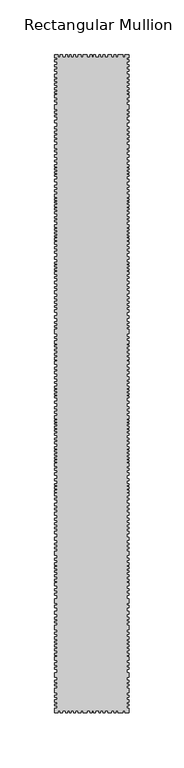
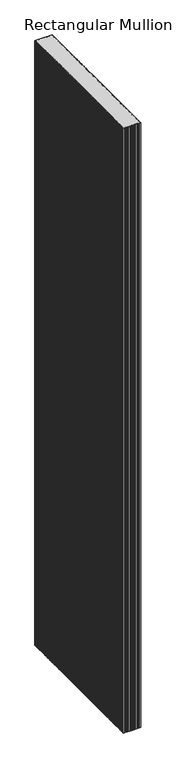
"""IFC4 building model written with IfcOpenShell, lengths in millimetres: member geometry, Rectangular Mullion : DucoSun Cubic Design louvre 600."""

from ifc_helpers import new_model, si_unit, frame, origin, place, context, project, spatial, polyline, outline, extrude, source, transform, mapped, element, save


def rectangular_mullion_94cab562(model_context):
    return source(origin(), model_context, "Body", "SweptSolid", [
        extrude(outline(polyline([(34.0, 597.3782451), (32.0, 597.3782451), (32.0, 595.4241521), (34.0, 595.4241521), (34.0, 593.6532553), (32.0, 593.6532553), (32.0, 590.9460223), (34.0, 590.9460223), (34.0, 588.9105087), (32.0, 588.9105087), (32.0, 586.7121541), (34.0, 586.7121541), (34.0, 585.0023227), (32.0, 585.0023227), (32.0, 582.3561551), (34.0, 582.3561551), (34.0, 579.3843053), (32.0, 579.3843053), (32.0, 577.8917893), (34.0, 577.8917893), (34.0, 575.8425117), (32.0, 575.8425117), (32.0, 573.8680636), (34.0, 573.8680636), (34.0, 572.1582322), (32.0, 572.1582322), (32.0, 570.0820083), (34.0, 570.0820083), (34.0, 568.3111116), (32.0, 568.3111116), (32.0, 566.4995045), (34.0, 566.4995045), (34.0, 565.0713495), (32.0, 565.0713495), (32.0, 563.4577392), (34.0, 563.4577392), (34.0, 561.0328231), (32.0, 561.0328231), (32.0, 558.5725067), (34.0, 558.5725067), (34.0, 557.0325964), (32.0, 557.0325964), (32.0, 554.5014796), (34.0, 554.5014796), (34.0, 550.4127524), (32.0, 550.4127524), (32.0, 548.4126391), (34.0, 548.4126391), (34.0, 546.8373286), (32.0, 546.8373286), (32.0, 544.9965163), (34.0, 544.9965163), (34.0, 543.3504053), (32.0, 543.3504053), (32.0, 540.3767855), (34.0, 540.3767855), (34.0, 537.9545244), (32.0, 537.9545244), (32.0, 534.5552168), (34.0, 534.5552168), (34.0, 532.5197032), (32.0, 532.5197032), (32.0, 530.239928), (34.0, 530.239928), (34.0, 528.6929377), (32.0, 528.6929377), (32.0, 526.4335177), (34.0, 526.4335177), (34.0, 524.5608452), (32.0, 524.5608452), (32.0, 522.6271073), (34.0, 522.6271073), (34.0, 520.5508835), (32.0, 520.5508835), (32.0, 518.0064916), (34.0, 518.0064916), (34.0, 514.9328661), (32.0, 514.9328661), (32.0, 512.9177077), (34.0, 512.9177077), (34.0, 511.4114277), (32.0, 511.4114277), (32.0, 508.9688114), (34.0, 508.9688114), (34.0, 506.7118273), (32.0, 506.7118273), (32.0, 503.8852623), (34.0, 503.8852623), (34.0, 502.4316003), (32.0, 502.4316003), (32.0, 499.9011516), (34.0, 499.9011516), (34.0, 497.8552569), (32.0, 497.8552569), (32.0, 496.6169522), (34.0, 496.6169522), (34.0, 495.0825312), (32.0, 495.0825312), (32.0, 493.4673512), (34.0, 493.4673512), (34.0, 492.0675286), (32.0, 492.0675286), (32.0, 490.5869469), (34.0, 490.5869469), (34.0, 489.1602046), (32.0, 489.1602046), (32.0, 486.3310055), (34.0, 486.3310055), (34.0, 484.2608252), (32.0, 484.2608252), (32.0, 481.1919832), (34.0, 481.1919832), (34.0, 479.2537672), (32.0, 479.2537672), (32.0, 476.9360418), (34.0, 476.9360418), (34.0, 475.0004598), (32.0, 475.0004598), (32.0, 472.9007258), (34.0, 472.9007258), (34.0, 470.1010805), (32.0, 470.1010805), (32.0, 468.8089365), (34.0, 468.8089365), (34.0, 467.3014351), (32.0, 467.3014351), (32.0, 466.0362108), (34.0, 466.0362108), (34.0, 465.0401831), (32.0, 465.0401831), (32.0, 463.2096458), (34.0, 463.2096458), (34.0, 461.6483051), (32.0, 461.6483051), (32.0, 460.1408038), (34.0, 460.1408038), (34.0, 458.6063828), (32.0, 458.6063828), (32.0, 457.0719618), (34.0, 457.0719618), (34.0, 455.0799064), (32.0, 455.0799064), (32.0, 452.3762692), (34.0, 452.3762692), (34.0, 450.8903036), (32.0, 450.8903036), (32.0, 449.1257194), (34.0, 449.1257194), (34.0, 447.6087962), (32.0, 447.6087962), (32.0, 444.8535683), (34.0, 444.8535683), (34.0, 442.7484504), (32.0, 442.7484504), (32.0, 441.4172729), (34.0, 441.4172729), (34.0, 439.9622649), (32.0, 439.9622649), (32.0, 438.3524688), (34.0, 438.3524688), (34.0, 436.8355456), (32.0, 436.8355456), (32.0, 435.1947919), (34.0, 435.1947919), (34.0, 433.9255296), (32.0, 433.9255296), (32.0, 432.5014792), (34.0, 432.5014792), (34.0, 431.1083865), (32.0, 431.1083865), (32.0, 429.6843361), (34.0, 429.6843361), (34.0, 427.0529387), (32.0, 427.0529387), (32.0, 424.9787784), (34.0, 424.9787784), (34.0, 423.0284485), (32.0, 423.0284485), (32.0, 420.7995001), (34.0, 420.7995001), (34.0, 418.8182126), (32.0, 418.8182126), (32.0, 415.6914933), (34.0, 415.6914933), (34.0, 413.4935025), (32.0, 413.4935025), (32.0, 410.954978), (34.0, 410.954978), (34.0, 409.4070971), (32.0, 409.4070971), (32.0, 408.1378348), (34.0, 408.1378348), (34.0, 406.4970812), (32.0, 406.4970812), (32.0, 404.8253698), (34.0, 404.8253698), (34.0, 403.3394042), (32.0, 403.3394042), (32.0, 402.0391843), (34.0, 402.0391843), (34.0, 400.0578969), (32.0, 400.0578969), (32.0, 397.6741604), (34.0, 397.6741604), (34.0, 396.0953219), (32.0, 396.0953219), (32.0, 393.3091364), (34.0, 393.3091364), (34.0, 391.0182728), (32.0, 391.0182728), (32.0, 388.572621), (34.0, 388.572621), (34.0, 387.1485707), (32.0, 387.1485707), (32.0, 385.0124951), (34.0, 385.0124951), (34.0, 382.1643944), (32.0, 382.1643944), (32.0, 379.3782089), (34.0, 379.3782089), (34.0, 377.427879), (32.0, 377.427879), (32.0, 375.4156339), (34.0, 375.4156339), (34.0, 373.6510498), (32.0, 373.6510498), (32.0, 371.1744404), (34.0, 371.1744404), (34.0, 369.6884748), (32.0, 369.6884748), (32.0, 367.5523993), (34.0, 367.5523993), (34.0, 365.4163237), (32.0, 365.4163237), (32.0, 362.1967316), (34.0, 362.1967316), (34.0, 359.5343765), (32.0, 359.5343765), (32.0, 356.7791486), (34.0, 356.7791486), (34.0, 355.0764797), (32.0, 355.0764797), (32.0, 352.9404041), (34.0, 352.9404041), (34.0, 351.6092266), (32.0, 351.6092266), (32.0, 349.5660239), (34.0, 349.5660239), (34.0, 345.512038), (32.0, 345.512038), (32.0, 343.0030092), (34.0, 343.0030092), (34.0, 341.3312979), (32.0, 341.3312979), (32.0, 339.0404342), (34.0, 339.0404342), (34.0, 336.5638249), (32.0, 336.5638249), (32.0, 335.015944), (34.0, 335.015944), (34.0, 333.5609361), (32.0, 333.5609361), (32.0, 331.5796486), (34.0, 331.5796486), (34.0, 330.0627254), (32.0, 330.0627254), (32.0, 327.8337769), (34.0, 327.8337769), (34.0, 326.1620656), (32.0, 326.1620656), (32.0, 324.0259901), (34.0, 324.0259901), (34.0, 322.0756602), (32.0, 322.0756602), (32.0, 320.6516099), (34.0, 320.6516099), (34.0, 317.7415939), (32.0, 317.7415939), (32.0, 315.2030693), (34.0, 315.2030693), (34.0, 313.1908242), (32.0, 313.1908242), (32.0, 311.2404944), (34.0, 311.2404944), (34.0, 309.1353764), (32.0, 309.1353764), (32.0, 306.2563181), (34.0, 306.2563181), (34.0, 303.7186411), (32.0, 303.7186411), (32.0, 301.7889994), (34.0, 301.7889994), (34.0, 300.3353374), (32.0, 300.3353374), (32.0, 297.8048887), (34.0, 297.8048887), (34.0, 295.758994), (32.0, 295.758994), (32.0, 294.5206893), (34.0, 294.5206893), (34.0, 292.9862683), (32.0, 292.9862683), (32.0, 291.3710883), (34.0, 291.3710883), (34.0, 289.9712657), (32.0, 289.9712657), (32.0, 288.490684), (34.0, 288.490684), (34.0, 287.0639417), (32.0, 287.0639417), (32.0, 284.2347426), (34.0, 284.2347426), (34.0, 282.1645623), (32.0, 282.1645623), (32.0, 279.0957203), (34.0, 279.0957203), (34.0, 277.1575043), (32.0, 277.1575043), (32.0, 274.8397789), (34.0, 274.8397789), (34.0, 272.9041969), (32.0, 272.9041969), (32.0, 270.8044629), (34.0, 270.8044629), (34.0, 268.0048176), (32.0, 268.0048176), (32.0, 266.7126736), (34.0, 266.7126736), (34.0, 265.2051722), (32.0, 265.2051722), (32.0, 263.9399479), (34.0, 263.9399479), (34.0, 262.9439202), (32.0, 262.9439202), (32.0, 261.1133829), (34.0, 261.1133829), (34.0, 259.5520422), (32.0, 259.5520422), (32.0, 258.0445409), (34.0, 258.0445409), (34.0, 256.5101199), (32.0, 256.5101199), (32.0, 254.9756989), (34.0, 254.9756989), (34.0, 252.9836435), (32.0, 252.9836435), (32.0, 250.2800063), (34.0, 250.2800063), (34.0, 248.7940407), (32.0, 248.7940407), (32.0, 247.0294565), (34.0, 247.0294565), (34.0, 245.5125333), (32.0, 245.5125333), (32.0, 242.7573054), (34.0, 242.7573054), (34.0, 240.6521875), (32.0, 240.6521875), (32.0, 239.32101), (34.0, 239.32101), (34.0, 237.866002), (32.0, 237.866002), (32.0, 236.2562059), (34.0, 236.2562059), (34.0, 234.7392827), (32.0, 234.7392827), (32.0, 233.098529), (34.0, 233.098529), (34.0, 231.8292667), (32.0, 231.8292667), (32.0, 230.4052163), (34.0, 230.4052163), (34.0, 229.0121236), (32.0, 229.0121236), (32.0, 227.5880732), (34.0, 227.5880732), (34.0, 224.9566758), (32.0, 224.9566758), (32.0, 222.8825155), (34.0, 222.8825155), (34.0, 220.9321856), (32.0, 220.9321856), (32.0, 218.7032372), (34.0, 218.7032372), (34.0, 216.7219497), (32.0, 216.7219497), (32.0, 213.5952304), (34.0, 213.5952304), (34.0, 211.3972396), (32.0, 211.3972396), (32.0, 208.8587151), (34.0, 208.8587151), (34.0, 207.3108342), (32.0, 207.3108342), (32.0, 206.0415719), (34.0, 206.0415719), (34.0, 204.4008183), (32.0, 204.4008183), (32.0, 202.7291069), (34.0, 202.7291069), (34.0, 201.2431413), (32.0, 201.2431413), (32.0, 199.9429214), (34.0, 199.9429214), (34.0, 197.961634), (32.0, 197.961634), (32.0, 195.5778975), (34.0, 195.5778975), (34.0, 193.999059), (32.0, 193.999059), (32.0, 191.2128735), (34.0, 191.2128735), (34.0, 188.9220099), (32.0, 188.9220099), (32.0, 186.4763581), (34.0, 186.4763581), (34.0, 185.0523078), (32.0, 185.0523078), (32.0, 182.9162322), (34.0, 182.9162322), (34.0, 180.0681315), (32.0, 180.0681315), (32.0, 177.281946), (34.0, 177.281946), (34.0, 175.3316161), (32.0, 175.3316161), (32.0, 173.319371), (34.0, 173.319371), (34.0, 171.5547869), (32.0, 171.5547869), (32.0, 169.0781775), (34.0, 169.0781775), (34.0, 167.5922119), (32.0, 167.5922119), (32.0, 165.4561364), (34.0, 165.4561364), (34.0, 163.3200608), (32.0, 163.3200608), (32.0, 160.1004687), (34.0, 160.1004687), (34.0, 157.4381136), (32.0, 157.4381136), (32.0, 154.6828857), (34.0, 154.6828857), (34.0, 152.9802168), (32.0, 152.9802168), (32.0, 150.8441412), (34.0, 150.8441412), (34.0, 149.5129637), (32.0, 149.5129637), (32.0, 147.469761), (34.0, 147.469761), (34.0, 143.4157751), (32.0, 143.4157751), (32.0, 140.9067463), (34.0, 140.9067463), (34.0, 139.235035), (32.0, 139.235035), (32.0, 136.9441713), (34.0, 136.9441713), (34.0, 134.467562), (32.0, 134.467562), (32.0, 132.9196811), (34.0, 132.9196811), (34.0, 131.4646731), (32.0, 131.4646731), (32.0, 129.4833857), (34.0, 129.4833857), (34.0, 127.9664625), (32.0, 127.9664625), (32.0, 125.737514), (34.0, 125.737514), (34.0, 124.0658027), (32.0, 124.0658027), (32.0, 121.9297272), (34.0, 121.9297272), (34.0, 119.9793973), (32.0, 119.9793973), (32.0, 118.555347), (34.0, 118.555347), (34.0, 115.645331), (32.0, 115.645331), (32.0, 113.1068064), (34.0, 113.1068064), (34.0, 111.0945613), (32.0, 111.0945613), (32.0, 109.1442315), (34.0, 109.1442315), (34.0, 107.0391135), (32.0, 107.0391135), (32.0, 104.0), (34.0, 104.0), (34.0, 100.0), (32.0, 100.0), (32.0, 97.8639244), (34.0, 97.8639244), (34.0, 95.7278489), (32.0, 95.7278489), (32.0, 92.5082567), (34.0, 92.5082567), (34.0, 89.8459017), (32.0, 89.8459017), (32.0, 87.0906738), (34.0, 87.0906738), (34.0, 85.3880049), (32.0, 85.3880049), (32.0, 83.2519293), (34.0, 83.2519293), (34.0, 81.9207518), (32.0, 81.9207518), (32.0, 79.8775491), (34.0, 79.8775491), (34.0, 75.8235632), (32.0, 75.8235632), (32.0, 73.3145343), (34.0, 73.3145343), (34.0, 71.642823), (32.0, 71.642823), (32.0, 69.3519594), (34.0, 69.3519594), (34.0, 66.8753501), (32.0, 66.8753501), (32.0, 65.3274692), (34.0, 65.3274692), (34.0, 63.8724612), (32.0, 63.8724612), (32.0, 61.8911738), (34.0, 61.8911738), (34.0, 60.3742505), (32.0, 60.3742505), (32.0, 58.1453021), (34.0, 58.1453021), (34.0, 56.4735908), (32.0, 56.4735908), (32.0, 54.3375153), (34.0, 54.3375153), (34.0, 52.3871854), (32.0, 52.3871854), (32.0, 50.963135), (34.0, 50.963135), (34.0, 48.0531191), (32.0, 48.0531191), (32.0, 45.5145945), (34.0, 45.5145945), (34.0, 43.5023494), (32.0, 43.5023494), (32.0, 41.5520195), (34.0, 41.5520195), (34.0, 39.4469016), (32.0, 39.4469016), (32.0, 36.4077881), (34.0, 36.4077881), (34.0, 32.4077881), (32.0, 32.4077881), (32.0, 29.6525602), (34.0, 29.6525602), (34.0, 27.9498913), (32.0, 27.9498913), (32.0, 25.8138157), (34.0, 25.8138157), (34.0, 24.4826382), (32.0, 24.4826382), (32.0, 22.4394355), (34.0, 22.4394355), (34.0, 18.3854496), (32.0, 18.3854496), (32.0, 15.8764207), (34.0, 15.8764207), (34.0, 14.2047094), (32.0, 14.2047094), (32.0, 11.9138458), (34.0, 11.9138458), (34.0, 9.4372364), (32.0, 9.4372364), (32.0, 7.8893556), (34.0, 7.8893556), (34.0, 6.4343476), (32.0, 6.4343476), (32.0, 4.0), (34.0, 4.0), (34.0, 0.0), (30.4544414, 0.0), (30.4544414, 2.0), (28.627942, 2.0), (28.627942, 0.0), (23.9842994, 0.0), (23.9842994, 2.0), (21.8172663, 2.0), (21.8172663, 0.0), (20.3003431, 0.0), (20.3003431, 2.0), (17.9475642, 2.0), (17.9475642, 0.0), (14.8827601, 0.0), (14.8827601, 2.0), (12.0965746, 2.0), (12.0965746, 0.0), (10.3939057, 0.0), (10.3939057, 2.0), (8.0101692, 2.0), (8.0101692, 0.0), (6.5242036, 0.0), (6.5242036, 2.0), (3.4884678, 2.0), (3.4884678, 0.0), (1.7094289, 0.0), (1.7094289, 2.0), (0.0, 2.0), (0.0, 0.0), (-1.8486488, 0.0), (-1.8486488, 2.0), (-4.2128978, 2.0), (-4.2128978, 0.0), (-7.9816511, 0.0), (-7.9816511, 2.0), (-10.0415908, 2.0), (-10.0415908, 0.0), (-12.7335575, 0.0), (-12.7335575, 2.0), (-15.0041729, 2.0), (-15.0041729, 0.0), (-16.8768453, 0.0), (-16.8768453, 2.0), (-18.9367851, 2.0), (-18.9367851, 0.0), (-20.2710642, 0.0), (-20.2710642, 2.0), (-22.3075955, 2.0), (-22.3075955, 0.0), (-23.8993671, 0.0), (-23.8993671, 2.0), (-26.9658683, 2.0), (-26.9658683, 0.0), (-28.9321744, 0.0), (-28.9321744, 2.0), (-30.8750721, 2.0), (-30.8750721, 0.0), (-34.0, 0.0), (-34.0, 4.0), (-32.0, 4.0), (-32.0, 6.4343476), (-34.0, 6.4343476), (-34.0, 7.8893556), (-32.0, 7.8893556), (-32.0, 9.4372364), (-34.0, 9.4372364), (-34.0, 11.9138458), (-32.0, 11.9138458), (-32.0, 14.2047094), (-34.0, 14.2047094), (-34.0, 15.8764207), (-32.0, 15.8764207), (-32.0, 18.3854496), (-34.0, 18.3854496), (-34.0, 22.4394355), (-32.0, 22.4394355), (-32.0, 24.4826382), (-34.0, 24.4826382), (-34.0, 25.8138157), (-32.0, 25.8138157), (-32.0, 27.9498913), (-34.0, 27.9498913), (-34.0, 29.6525602), (-32.0, 29.6525602), (-32.0, 32.4077881), (-34.0, 32.4077881), (-34.0, 36.4077881), (-32.0, 36.4077881), (-32.0, 39.4469016), (-34.0, 39.4469016), (-34.0, 41.5520195), (-32.0, 41.5520195), (-32.0, 43.5023494), (-34.0, 43.5023494), (-34.0, 45.5145945), (-32.0, 45.5145945), (-32.0, 48.0531191), (-34.0, 48.0531191), (-34.0, 50.963135), (-32.0, 50.963135), (-32.0, 52.3871854), (-34.0, 52.3871854), (-34.0, 54.3375153), (-32.0, 54.3375153), (-32.0, 56.4735908), (-34.0, 56.4735908), (-34.0, 58.1453021), (-32.0, 58.1453021), (-32.0, 60.3742505), (-34.0, 60.3742505), (-34.0, 61.8911738), (-32.0, 61.8911738), (-32.0, 63.8724612), (-34.0, 63.8724612), (-34.0, 65.3274692), (-32.0, 65.3274692), (-32.0, 66.8753501), (-34.0, 66.8753501), (-34.0, 69.3519594), (-32.0, 69.3519594), (-32.0, 71.642823), (-34.0, 71.642823), (-34.0, 73.3145343), (-32.0, 73.3145343), (-32.0, 75.8235632), (-34.0, 75.8235632), (-34.0, 79.8775491), (-32.0, 79.8775491), (-32.0, 81.9207518), (-34.0, 81.9207518), (-34.0, 83.2519293), (-32.0, 83.2519293), (-32.0, 85.3880049), (-34.0, 85.3880049), (-34.0, 87.0906738), (-32.0, 87.0906738), (-32.0, 89.8459017), (-34.0, 89.8459017), (-34.0, 92.5082567), (-32.0, 92.5082567), (-32.0, 95.7278489), (-34.0, 95.7278489), (-34.0, 97.8639244), (-32.0, 97.8639244), (-32.0, 100.0), (-34.0, 100.0), (-34.0, 104.0), (-32.0, 104.0), (-32.0, 107.0391135), (-34.0, 107.0391135), (-34.0, 109.1442315), (-32.0, 109.1442315), (-32.0, 111.0945613), (-34.0, 111.0945613), (-34.0, 113.1068064), (-32.0, 113.1068064), (-32.0, 115.645331), (-34.0, 115.645331), (-34.0, 118.555347), (-32.0, 118.555347), (-32.0, 119.9793973), (-34.0, 119.9793973), (-34.0, 121.9297272), (-32.0, 121.9297272), (-32.0, 124.0658027), (-34.0, 124.0658027), (-34.0, 125.737514), (-32.0, 125.737514), (-32.0, 127.9664625), (-34.0, 127.9664625), (-34.0, 129.4833857), (-32.0, 129.4833857), (-32.0, 131.4646731), (-34.0, 131.4646731), (-34.0, 132.9196811), (-32.0, 132.9196811), (-32.0, 134.467562), (-34.0, 134.467562), (-34.0, 136.9441713), (-32.0, 136.9441713), (-32.0, 139.235035), (-34.0, 139.235035), (-34.0, 140.9067463), (-32.0, 140.9067463), (-32.0, 143.4157751), (-34.0, 143.4157751), (-34.0, 147.469761), (-32.0, 147.469761), (-32.0, 149.5129637), (-34.0, 149.5129637), (-34.0, 150.8441412), (-32.0, 150.8441412), (-32.0, 152.9802168), (-34.0, 152.9802168), (-34.0, 154.6828857), (-32.0, 154.6828857), (-32.0, 157.4381136), (-34.0, 157.4381136), (-34.0, 160.1004687), (-32.0, 160.1004687), (-32.0, 163.3200608), (-34.0, 163.3200608), (-34.0, 165.4561364), (-32.0, 165.4561364), (-32.0, 167.5922119), (-34.0, 167.5922119), (-34.0, 169.0781775), (-32.0, 169.0781775), (-32.0, 171.5547869), (-34.0, 171.5547869), (-34.0, 173.319371), (-32.0, 173.319371), (-32.0, 175.3316161), (-34.0, 175.3316161), (-34.0, 177.281946), (-32.0, 177.281946), (-32.0, 180.0681315), (-34.0, 180.0681315), (-34.0, 182.9162322), (-32.0, 182.9162322), (-32.0, 185.0523078), (-34.0, 185.0523078), (-34.0, 186.4763581), (-32.0, 186.4763581), (-32.0, 188.9220099), (-34.0, 188.9220099), (-34.0, 191.2128735), (-32.0, 191.2128735), (-32.0, 193.999059), (-34.0, 193.999059), (-34.0, 195.5778975), (-32.0, 195.5778975), (-32.0, 197.961634), (-34.0, 197.961634), (-34.0, 199.9429214), (-32.0, 199.9429214), (-32.0, 201.2431413), (-34.0, 201.2431413), (-34.0, 202.7291069), (-32.0, 202.7291069), (-32.0, 204.4008183), (-34.0, 204.4008183), (-34.0, 206.0415719), (-32.0, 206.0415719), (-32.0, 207.3108342), (-34.0, 207.3108342), (-34.0, 208.8587151), (-32.0, 208.8587151), (-32.0, 211.3972396), (-34.0, 211.3972396), (-34.0, 213.5952304), (-32.0, 213.5952304), (-32.0, 216.7219497), (-34.0, 216.7219497), (-34.0, 218.7032372), (-32.0, 218.7032372), (-32.0, 220.9321856), (-34.0, 220.9321856), (-34.0, 222.8825155), (-32.0, 222.8825155), (-32.0, 224.9566758), (-34.0, 224.9566758), (-34.0, 227.5880732), (-32.0, 227.5880732), (-32.0, 229.0121236), (-34.0, 229.0121236), (-34.0, 230.4052163), (-32.0, 230.4052163), (-32.0, 231.8292667), (-34.0, 231.8292667), (-34.0, 233.098529), (-32.0, 233.098529), (-32.0, 234.7392827), (-34.0, 234.7392827), (-34.0, 236.2562059), (-32.0, 236.2562059), (-32.0, 237.866002), (-34.0, 237.866002), (-34.0, 239.32101), (-32.0, 239.32101), (-32.0, 240.6521875), (-34.0, 240.6521875), (-34.0, 242.7573054), (-32.0, 242.7573054), (-32.0, 245.5125333), (-34.0, 245.5125333), (-34.0, 247.0294565), (-32.0, 247.0294565), (-32.0, 248.7940407), (-34.0, 248.7940407), (-34.0, 250.2800063), (-32.0, 250.2800063), (-32.0, 252.9836435), (-34.0, 252.9836435), (-34.0, 254.9756989), (-32.0, 254.9756989), (-32.0, 256.5101199), (-34.0, 256.5101199), (-34.0, 258.0445409), (-32.0, 258.0445409), (-32.0, 259.5520422), (-34.0, 259.5520422), (-34.0, 261.1133829), (-32.0, 261.1133829), (-32.0, 262.9439202), (-34.0, 262.9439202), (-34.0, 263.9399479), (-32.0, 263.9399479), (-32.0, 265.2051722), (-34.0, 265.2051722), (-34.0, 266.7126736), (-32.0, 266.7126736), (-32.0, 268.0048176), (-34.0, 268.0048176), (-34.0, 270.8044629), (-32.0, 270.8044629), (-32.0, 272.9041969), (-34.0, 272.9041969), (-34.0, 274.8397789), (-32.0, 274.8397789), (-32.0, 277.1575043), (-34.0, 277.1575043), (-34.0, 279.0957203), (-32.0, 279.0957203), (-32.0, 282.1645623), (-34.0, 282.1645623), (-34.0, 284.2347426), (-32.0, 284.2347426), (-32.0, 287.0639417), (-34.0, 287.0639417), (-34.0, 288.490684), (-32.0, 288.490684), (-32.0, 289.9712657), (-34.0, 289.9712657), (-34.0, 291.3710883), (-32.0, 291.3710883), (-32.0, 292.9862683), (-34.0, 292.9862683), (-34.0, 294.5206893), (-32.0, 294.5206893), (-32.0, 295.758994), (-34.0, 295.758994), (-34.0, 297.8048887), (-32.0, 297.8048887), (-32.0, 300.3353374), (-34.0, 300.3353374), (-34.0, 301.7889994), (-32.0, 301.7889994), (-32.0, 304.6155644), (-34.0, 304.6155644), (-34.0, 306.2563181), (-32.0, 306.2563181), (-32.0, 309.1353764), (-34.0, 309.1353764), (-34.0, 311.2404944), (-32.0, 311.2404944), (-32.0, 313.1908242), (-34.0, 313.1908242), (-34.0, 315.2030693), (-32.0, 315.2030693), (-32.0, 317.7415939), (-34.0, 317.7415939), (-34.0, 320.6516099), (-32.0, 320.6516099), (-32.0, 322.0756602), (-34.0, 322.0756602), (-34.0, 324.0259901), (-32.0, 324.0259901), (-32.0, 326.1620656), (-34.0, 326.1620656), (-34.0, 327.8337769), (-32.0, 327.8337769), (-32.0, 330.0627254), (-34.0, 330.0627254), (-34.0, 331.5796486), (-32.0, 331.5796486), (-32.0, 333.5609361), (-34.0, 333.5609361), (-34.0, 335.015944), (-32.0, 335.015944), (-32.0, 336.5638249), (-34.0, 336.5638249), (-34.0, 339.0404342), (-32.0, 339.0404342), (-32.0, 341.3312979), (-34.0, 341.3312979), (-34.0, 343.0030092), (-32.0, 343.0030092), (-32.0, 345.512038), (-34.0, 345.512038), (-34.0, 349.5660239), (-32.0, 349.5660239), (-32.0, 351.6092266), (-34.0, 351.6092266), (-34.0, 352.9404041), (-32.0, 352.9404041), (-32.0, 355.0764797), (-34.0, 355.0764797), (-34.0, 356.7791486), (-32.0, 356.7791486), (-32.0, 359.5343765), (-34.0, 359.5343765), (-34.0, 362.1967316), (-32.0, 362.1967316), (-32.0, 365.4163237), (-34.0, 365.4163237), (-34.0, 367.5523993), (-32.0, 367.5523993), (-32.0, 369.6884748), (-34.0, 369.6884748), (-34.0, 371.1744404), (-32.0, 371.1744404), (-32.0, 373.6510498), (-34.0, 373.6510498), (-34.0, 375.4156339), (-32.0, 375.4156339), (-32.0, 377.427879), (-34.0, 377.427879), (-34.0, 379.3782089), (-32.0, 379.3782089), (-32.0, 382.1643944), (-34.0, 382.1643944), (-34.0, 385.0124951), (-32.0, 385.0124951), (-32.0, 387.1485707), (-34.0, 387.1485707), (-34.0, 388.572621), (-32.0, 388.572621), (-32.0, 391.0182728), (-34.0, 391.0182728), (-34.0, 393.3091364), (-32.0, 393.3091364), (-32.0, 396.0953219), (-34.0, 396.0953219), (-34.0, 397.6741604), (-32.0, 397.6741604), (-32.0, 400.0578969), (-34.0, 400.0578969), (-34.0, 402.0391843), (-32.0, 402.0391843), (-32.0, 403.3394042), (-34.0, 403.3394042), (-34.0, 404.8253698), (-32.0, 404.8253698), (-32.0, 406.4970812), (-34.0, 406.4970812), (-34.0, 408.1378348), (-32.0, 408.1378348), (-32.0, 409.4070971), (-34.0, 409.4070971), (-34.0, 410.954978), (-32.0, 410.954978), (-32.0, 413.4935025), (-34.0, 413.4935025), (-34.0, 415.6914933), (-32.0, 415.6914933), (-32.0, 418.8182126), (-34.0, 418.8182126), (-34.0, 420.7995001), (-32.0, 420.7995001), (-32.0, 423.0284485), (-34.0, 423.0284485), (-34.0, 424.9787784), (-32.0, 424.9787784), (-32.0, 427.0529387), (-34.0, 427.0529387), (-34.0, 429.6843361), (-32.0, 429.6843361), (-32.0, 431.1083865), (-34.0, 431.1083865), (-34.0, 432.5014792), (-32.0, 432.5014792), (-32.0, 433.9255296), (-34.0, 433.9255296), (-34.0, 435.1947919), (-32.0, 435.1947919), (-32.0, 436.8355456), (-34.0, 436.8355456), (-34.0, 438.3524688), (-32.0, 438.3524688), (-32.0, 439.9622649), (-34.0, 439.9622649), (-34.0, 441.4172729), (-32.0, 441.4172729), (-32.0, 442.7484504), (-34.0, 442.7484504), (-34.0, 444.8535683), (-32.0, 444.8535683), (-32.0, 447.6087962), (-34.0, 447.6087962), (-34.0, 449.1257194), (-32.0, 449.1257194), (-32.0, 450.8903036), (-34.0, 450.8903036), (-34.0, 452.3762692), (-32.0, 452.3762692), (-32.0, 455.0799064), (-34.0, 455.0799064), (-34.0, 457.0719618), (-32.0, 457.0719618), (-32.0, 458.6063828), (-34.0, 458.6063828), (-34.0, 460.1408038), (-32.0, 460.1408038), (-32.0, 461.6483051), (-34.0, 461.6483051), (-34.0, 463.2096458), (-32.0, 463.2096458), (-32.0, 465.0401831), (-34.0, 465.0401831), (-34.0, 466.0362108), (-32.0, 466.0362108), (-32.0, 467.3014351), (-34.0, 467.3014351), (-34.0, 468.8089365), (-32.0, 468.8089365), (-32.0, 470.1010805), (-34.0, 470.1010805), (-34.0, 472.9007258), (-32.0, 472.9007258), (-32.0, 475.0004598), (-34.0, 475.0004598), (-34.0, 476.9360418), (-32.0, 476.9360418), (-32.0, 479.2537672), (-34.0, 479.2537672), (-34.0, 481.1919832), (-32.0, 481.1919832), (-32.0, 484.2608252), (-34.0, 484.2608252), (-34.0, 486.3310055), (-32.0, 486.3310055), (-32.0, 489.1602046), (-34.0, 489.1602046), (-34.0, 490.5869469), (-32.0, 490.5869469), (-32.0, 492.0675286), (-34.0, 492.0675286), (-34.0, 493.4673512), (-32.0, 493.4673512), (-32.0, 495.0825312), (-34.0, 495.0825312), (-34.0, 496.6169522), (-32.0, 496.6169522), (-32.0, 497.8552569), (-34.0, 497.8552569), (-34.0, 499.9011516), (-32.0, 499.9011516), (-32.0, 502.4316003), (-34.0, 502.4316003), (-34.0, 503.8852623), (-32.0, 503.8852623), (-32.0, 506.7118273), (-34.0, 506.7118273), (-34.0, 508.9688114), (-32.0, 508.9688114), (-32.0, 511.4114277), (-34.0, 511.4114277), (-34.0, 512.9177077), (-32.0, 512.9177077), (-32.0, 514.9328661), (-34.0, 514.9328661), (-34.0, 518.0064916), (-32.0, 518.0064916), (-32.0, 520.5508835), (-34.0, 520.5508835), (-34.0, 522.6271073), (-32.0, 522.6271073), (-32.0, 524.5608452), (-34.0, 524.5608452), (-34.0, 526.4335177), (-32.0, 526.4335177), (-32.0, 528.6929377), (-34.0, 528.6929377), (-34.0, 530.239928), (-32.0, 530.239928), (-32.0, 532.5197032), (-34.0, 532.5197032), (-34.0, 534.5552168), (-32.0, 534.5552168), (-32.0, 537.9545244), (-34.0, 537.9545244), (-34.0, 540.3767855), (-32.0, 540.3767855), (-32.0, 543.3504053), (-34.0, 543.3504053), (-34.0, 544.9965163), (-32.0, 544.9965163), (-32.0, 546.8373286), (-34.0, 546.8373286), (-34.0, 548.4126391), (-32.0, 548.4126391), (-32.0, 550.4127524), (-34.0, 550.4127524), (-34.0, 554.5014796), (-32.0, 554.5014796), (-32.0, 557.0325964), (-34.0, 557.0325964), (-34.0, 558.5725067), (-32.0, 558.5725067), (-32.0, 561.0328231), (-34.0, 561.0328231), (-34.0, 563.4577392), (-32.0, 563.4577392), (-32.0, 565.0713495), (-34.0, 565.0713495), (-34.0, 566.4995045), (-32.0, 566.4995045), (-32.0, 568.3111116), (-34.0, 568.3111116), (-34.0, 570.0820083), (-32.0, 570.0820083), (-32.0, 572.1582322), (-34.0, 572.1582322), (-34.0, 573.8680636), (-32.0, 573.8680636), (-32.0, 575.8425117), (-34.0, 575.8425117), (-34.0, 577.8917893), (-32.0, 577.8917893), (-32.0, 579.3843053), (-34.0, 579.3843053), (-34.0, 582.3561551), (-32.0, 582.3561551), (-32.0, 585.0023227), (-34.0, 585.0023227), (-34.0, 586.7121541), (-32.0, 586.7121541), (-32.0, 588.9105087), (-34.0, 588.9105087), (-34.0, 590.9460223), (-32.0, 590.9460223), (-32.0, 593.6532553), (-34.0, 593.6532553), (-34.0, 595.4241521), (-32.0, 595.4241521), (-32.0, 597.3782451), (-34.0, 597.3782451), (-34.0, 600.0), (-30.8750721, 600.0), (-30.8750721, 598.0), (-28.9321744, 598.0), (-28.9321744, 600.0), (-26.9658683, 600.0), (-26.9658683, 598.0), (-23.8993671, 598.0), (-23.8993671, 600.0), (-22.3075955, 600.0), (-22.3075955, 598.0), (-20.2710642, 598.0), (-20.2710642, 600.0), (-18.9367851, 600.0), (-18.9367851, 598.0), (-16.8768453, 598.0), (-16.8768453, 600.0), (-15.0041729, 600.0), (-15.0041729, 598.0), (-12.7335575, 598.0), (-12.7335575, 600.0), (-10.0415908, 600.0), (-10.0415908, 598.0), (-7.9816511, 598.0), (-7.9816511, 600.0), (-4.2128978, 600.0), (-4.2128978, 598.0), (-1.8486488, 598.0), (-1.8486488, 600.0), (0.0, 600.0), (0.0, 598.0), (1.7094289, 598.0), (1.7094289, 600.0), (3.4884678, 600.0), (3.4884678, 598.0), (6.5242036, 598.0), (6.5242036, 600.0), (8.0101692, 600.0), (8.0101692, 598.0), (10.3939057, 598.0), (10.3939057, 600.0), (12.0965746, 600.0), (12.0965746, 598.0), (14.8827601, 598.0), (14.8827601, 600.0), (17.9475642, 600.0), (17.9475642, 598.0), (20.3003431, 598.0), (20.3003431, 600.0), (21.8172663, 600.0), (21.8172663, 598.0), (23.9842994, 598.0), (23.9842994, 600.0), (28.627942, 600.0), (28.627942, 598.0), (30.4544414, 598.0), (30.4544414, 600.0), (34.0, 600.0), (34.0, 597.3782451)])), frame((0.0, 0.0, -2500.0), z_axis=(0.0, 0.0, 1.0), x_axis=(1.0, 0.0, 0.0)), (0.0, 0.0, 1.0), 2500.0),
    ])


if __name__ == "__main__":
    model = new_model("IFC4")
    model_context = context("Model", 3, world=origin())
    ifc_project = project(units=[si_unit("LENGTHUNIT", "METRE", prefix="MILLI")], contexts=[model_context])
    site = spatial("IfcSite", under=ifc_project)
    building = spatial("IfcBuilding", under=site)
    placement = place(None, origin())
    rectangular_mullion_shape = rectangular_mullion_94cab562(model_context)
    element("IfcMember", 1, ObjectType="Rectangular Mullion : DucoSun Cubic Design louvre 600", at=placement, inside=building, context=model_context, shape_type="MappedRepresentation", body=[
        mapped(rectangular_mullion_shape, transform((0.0, 0.0, 0.0), x_axis=(1.0, 0.0, 0.0), y_axis=(0.0, 1.0, 0.0), z_axis=(0.0, 0.0, 1.0))),
    ])
    save(model, "model.ifc")
